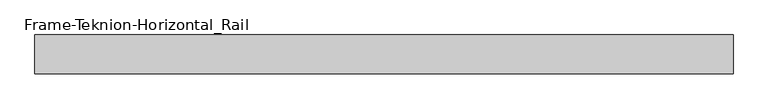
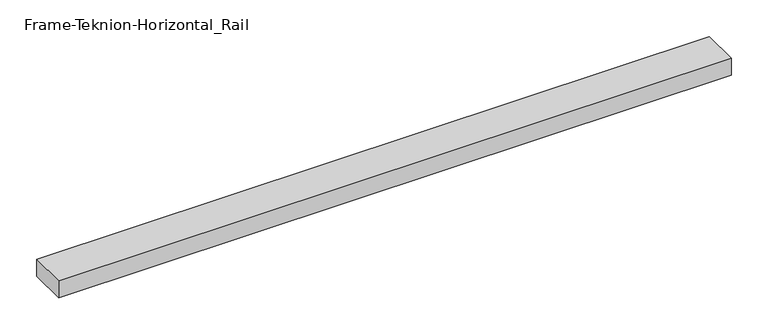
"""IFC4 building model written with IfcOpenShell, lengths in millimetres: proxy geometry, Frame-Teknion-Horizontal_Rail : FPKK."""

from ifc_helpers import new_model, si_unit, frame, origin, place, context, project, spatial, polyline, outline, extrude, source, transform, mapped, element, save


def frame_teknion_horizontal_rail_cc39d483(model_context):
    return source(origin(), model_context, "Body", "SweptSolid", [
        extrude(outline(polyline([(-525.1152344, -29.2199219), (-525.1152344, 29.2199219), (525.1152344, 29.2199219), (525.1152344, -29.2199219), (-525.1152344, -29.2199219)])), frame((0.0, 0.0, -13.9898438), z_axis=(0.0, 0.0, 1.0), x_axis=(1.0, 0.0, 0.0)), (0.0, 0.0, 1.0), 27.9796875),
    ])


if __name__ == "__main__":
    model = new_model("IFC4")
    model_context = context("Model", 3, world=origin())
    ifc_project = project(units=[si_unit("LENGTHUNIT", "METRE", prefix="MILLI")], contexts=[model_context])
    site = spatial("IfcSite", under=ifc_project)
    building = spatial("IfcBuilding", under=site)
    placement = place(None, origin())
    frame_teknion_horizontal_rail_shape = frame_teknion_horizontal_rail_cc39d483(model_context)
    element("IfcBuildingElementProxy", 1, Name="Frame-Teknion-Horizontal_Rail : FPKK", ObjectType="Frame-Teknion-Horizontal_Rail : FPKK", at=placement, inside=building, context=model_context, shape_type="MappedRepresentation", body=[
        mapped(frame_teknion_horizontal_rail_shape, transform((0.0, 0.0, 0.0), x_axis=(1.0, 0.0, 0.0), y_axis=(0.0, 1.0, 0.0), z_axis=(0.0, 0.0, 1.0))),
    ])
    save(model, "model.ifc")
